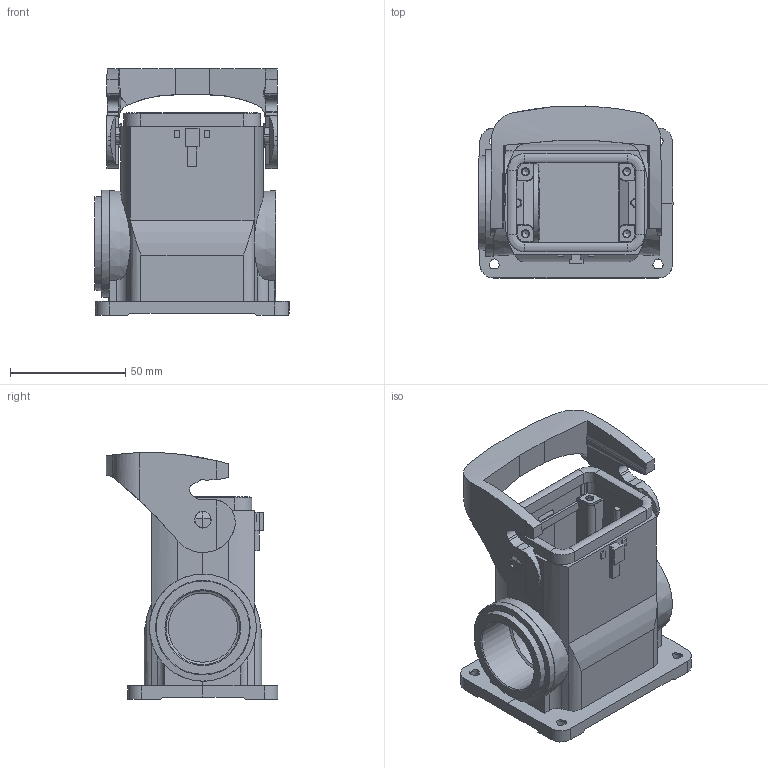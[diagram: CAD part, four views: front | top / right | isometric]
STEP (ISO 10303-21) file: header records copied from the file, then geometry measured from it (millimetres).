
FILE_DESCRIPTION(/* description */ (''),/* implementation_level */ '2;1');
FILE_NAME(/* name */ '100763074ugm000_c.stp',/* time_stamp */ '2022-03-12T06:44:48+01:00',/* author */ (''),/* organization */ (''),/* preprocessor_version */ 'ST-DEVELOPER v16.7',/* originating_system */ 'SIEMENS PLM Software NX 1911',/* authorisation */ '');
FILE_SCHEMA (('AUTOMOTIVE_DESIGN { 1 0 10303 214 3 1 1 1 }'));
Length unit declared in the file: millimetre
Products named in the file (1): 100763074ugm000_c
Bounding box: 84.15 x 74.44 x 107.09 mm (x, y, z)
Volume: 151136.8 mm3; surface area: 59914.3 mm2
Topology: 2 solids, 2 shells, 647 faces, 1968 edges, 1513 vertices
Faces by surface type: plane 406, cylinder 159, cone 66, bspline 8, torus 5, extrusion 3
Full cylindrical faces by diameter (mm): 1.594 x1, 3 x4, 3.4 x4, 3.5 x4, 7.2 x2, 30 x1, 32 x1, 46.4 x1
Entity records: 27500 total; most frequent: CARTESIAN_POINT 5229, ORIENTED_EDGE 3482, DIRECTION 3467, EDGE_CURVE 1741, VECTOR 1211, LINE 1208, VERTEX_POINT 1166, AXIS2_PLACEMENT_3D 1128
